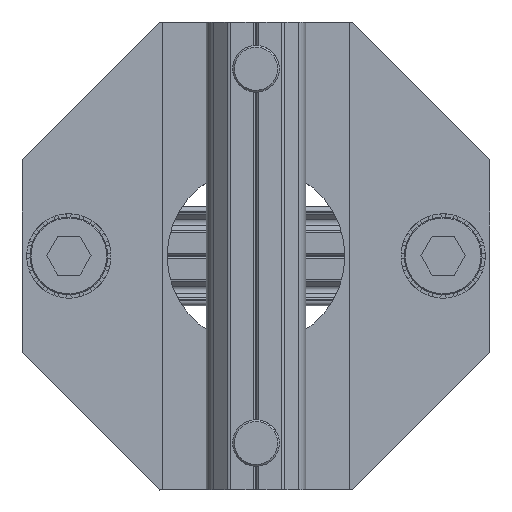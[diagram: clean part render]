
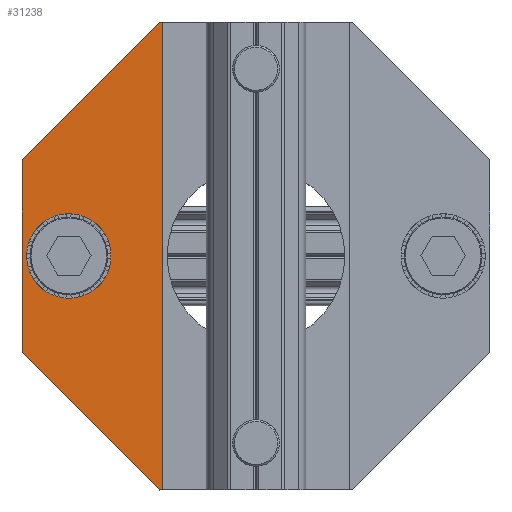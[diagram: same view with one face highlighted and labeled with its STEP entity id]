
A CAD part, top view. The second image highlights one B-rep face of the part: STEP entity #31238.
In plain terms, the highlighted planar face has unit normal (0, 0, 1).
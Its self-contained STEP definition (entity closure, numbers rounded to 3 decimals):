
#121 = ORIENTED_EDGE ( 'NONE', *, *, #4767, .F. ) ;
#147 = EDGE_CURVE ( 'NONE', #1216, #8924, #16301, .T. ) ;
#952 = CARTESIAN_POINT ( 'NONE',  ( -25.516, 5.232, 0. ) ) ;
#1043 = VECTOR ( 'NONE', #9720, 1000. ) ;
#1216 = VERTEX_POINT ( 'NONE', #9773 ) ;
#2390 = DIRECTION ( 'NONE',  ( 0., 0., 1. ) ) ;
#2747 = CARTESIAN_POINT ( 'NONE',  ( -20.516, 0., 0. ) ) ;
#4253 = CARTESIAN_POINT ( 'NONE',  ( -25.516, 5.165, 0. ) ) ;
#4767 = EDGE_CURVE ( 'NONE', #7686, #28721, #33639, .T. ) ;
#4784 = ORIENTED_EDGE ( 'NONE', *, *, #14534, .F. ) ;
#4918 = FACE_BOUND ( 'NONE', #36878, .T. ) ;
#5822 = ORIENTED_EDGE ( 'NONE', *, *, #6804, .T. ) ;
#6051 = DIRECTION ( 'NONE',  ( -0.707, -0.707, 0. ) ) ;
#6063 = DIRECTION ( 'NONE',  ( 1., 0., 0. ) ) ;
#6250 = LINE ( 'NONE', #36308, #13901 ) ;
#6390 = ORIENTED_EDGE ( 'NONE', *, *, #35831, .T. ) ;
#6629 = EDGE_LOOP ( 'NONE', ( #6390, #25272, #121, #18782, #26605, #11631, #22301, #5822, #35187, #14364 ) ) ;
#6804 = EDGE_CURVE ( 'NONE', #8138, #32970, #34823, .T. ) ;
#6832 = VERTEX_POINT ( 'NONE', #17656 ) ;
#6874 = CARTESIAN_POINT ( 'NONE',  ( -25.516, -10.355, 0. ) ) ;
#7031 = LINE ( 'NONE', #8136, #40836 ) ;
#7552 = CARTESIAN_POINT ( 'NONE',  ( -25.516, 5.075, 0. ) ) ;
#7686 = VERTEX_POINT ( 'NONE', #14499 ) ;
#7928 = EDGE_CURVE ( 'NONE', #24853, #20720, #34325, .T. ) ;
#8003 = DIRECTION ( 'NONE',  ( 1., 0., 0. ) ) ;
#8136 = CARTESIAN_POINT ( 'NONE',  ( -10.516, -24.9, 0. ) ) ;
#8138 = VERTEX_POINT ( 'NONE', #20310 ) ;
#8388 = VECTOR ( 'NONE', #6051, 1000. ) ;
#8858 = EDGE_CURVE ( 'NONE', #26115, #28721, #7031, .T. ) ;
#8924 = VERTEX_POINT ( 'NONE', #41073 ) ;
#9311 = ORIENTED_EDGE ( 'NONE', *, *, #7928, .F. ) ;
#9720 = DIRECTION ( 'NONE',  ( 0., -1., 0. ) ) ;
#9773 = CARTESIAN_POINT ( 'NONE',  ( -10.616, 25., 0. ) ) ;
#10412 = DIRECTION ( 'NONE',  ( 0.707, -0.707, 0. ) ) ;
#10805 = CARTESIAN_POINT ( 'NONE',  ( -25.516, 4.963, 0. ) ) ;
#10831 = EDGE_CURVE ( 'NONE', #19459, #8138, #6250, .T. ) ;
#10834 = EDGE_CURVE ( 'NONE', #27715, #6832, #23663, .T. ) ;
#11631 = ORIENTED_EDGE ( 'NONE', *, *, #20339, .T. ) ;
#12303 = CARTESIAN_POINT ( 'NONE',  ( -10.616, -25., 0. ) ) ;
#13901 = VECTOR ( 'NONE', #26741, 1000. ) ;
#14093 = CARTESIAN_POINT ( 'NONE',  ( -25.516, 4.83, 0. ) ) ;
#14364 = ORIENTED_EDGE ( 'NONE', *, *, #10834, .T. ) ;
#14499 = CARTESIAN_POINT ( 'NONE',  ( -10.516, 24.9, 0. ) ) ;
#14534 = EDGE_CURVE ( 'NONE', #20720, #24853, #22712, .T. ) ;
#15694 = LINE ( 'NONE', #34619, #40835 ) ;
#16301 = LINE ( 'NONE', #16389, #23994 ) ;
#16389 = CARTESIAN_POINT ( 'NONE',  ( 9.839, 25., 0. ) ) ;
#17234 = CARTESIAN_POINT ( 'NONE',  ( -25.516, 5.296, 0. ) ) ;
#17373 = CARTESIAN_POINT ( 'NONE',  ( -25.516, 4.678, 0. ) ) ;
#17656 = CARTESIAN_POINT ( 'NONE',  ( -10.871, -25., 0. ) ) ;
#18782 = ORIENTED_EDGE ( 'NONE', *, *, #37163, .T. ) ;
#18915 = CARTESIAN_POINT ( 'NONE',  ( -25.516, 4.568, 0. ) ) ;
#19177 = CARTESIAN_POINT ( 'NONE',  ( -10.871, 25., 0. ) ) ;
#19459 = VERTEX_POINT ( 'NONE', #30727 ) ;
#20310 = CARTESIAN_POINT ( 'NONE',  ( -25.516, 5.3, 0. ) ) ;
#20339 = EDGE_CURVE ( 'NONE', #8924, #19459, #34473, .T. ) ;
#20522 = CARTESIAN_POINT ( 'NONE',  ( -25.516, 5.264, 0. ) ) ;
#20660 = CARTESIAN_POINT ( 'NONE',  ( -25.516, 4.568, 0. ) ) ;
#20720 = VERTEX_POINT ( 'NONE', #27783 ) ;
#21976 = CARTESIAN_POINT ( 'NONE',  ( -20.516, 0., 0. ) ) ;
#22208 = DIRECTION ( 'NONE',  ( -1., 0., 0. ) ) ;
#22301 = ORIENTED_EDGE ( 'NONE', *, *, #10831, .T. ) ;
#22712 = CIRCLE ( 'NONE', #28413, 2.6 ) ;
#23663 = LINE ( 'NONE', #6874, #39010 ) ;
#23870 = CARTESIAN_POINT ( 'NONE',  ( -25.516, 5.212, 0. ) ) ;
#23994 = VECTOR ( 'NONE', #42350, 1000. ) ;
#24853 = VERTEX_POINT ( 'NONE', #34745 ) ;
#24972 = VECTOR ( 'NONE', #35313, 1000. ) ;
#25272 = ORIENTED_EDGE ( 'NONE', *, *, #8858, .T. ) ;
#25331 = DIRECTION ( 'NONE',  ( 1., 0., 0. ) ) ;
#25525 = CARTESIAN_POINT ( 'NONE',  ( -10.516, 25., 0. ) ) ;
#25686 = DIRECTION ( 'NONE',  ( 0., 0., 1. ) ) ;
#26115 = VERTEX_POINT ( 'NONE', #12303 ) ;
#26605 = ORIENTED_EDGE ( 'NONE', *, *, #147, .T. ) ;
#26741 = DIRECTION ( 'NONE',  ( 0., -1., 0. ) ) ;
#26863 = CARTESIAN_POINT ( 'NONE',  ( -25.516, 5.3, 0. ) ) ;
#27154 = CARTESIAN_POINT ( 'NONE',  ( -25.516, 5.137, 0. ) ) ;
#27715 = VERTEX_POINT ( 'NONE', #32474 ) ;
#27783 = CARTESIAN_POINT ( 'NONE',  ( -17.916, 0., 0. ) ) ;
#28413 = AXIS2_PLACEMENT_3D ( 'NONE', #21976, #2390, #25331 ) ;
#28659 = PLANE ( 'NONE',  #29492 ) ;
#28721 = VERTEX_POINT ( 'NONE', #30200 ) ;
#29312 = CARTESIAN_POINT ( 'NONE',  ( -25.516, 4.568, 0. ) ) ;
#29492 = AXIS2_PLACEMENT_3D ( 'NONE', #18915, #41871, #22208 ) ;
#30200 = CARTESIAN_POINT ( 'NONE',  ( -10.516, -24.9, 0. ) ) ;
#30420 = CARTESIAN_POINT ( 'NONE',  ( -25.516, 5.04, 0. ) ) ;
#30727 = CARTESIAN_POINT ( 'NONE',  ( -25.516, 10.355, 0. ) ) ;
#31238 = ADVANCED_FACE ( 'NONE', ( #4918, #38705 ), #28659, .F. ) ;
#31341 = DIRECTION ( 'NONE',  ( -0.707, 0.707, 0. ) ) ;
#31760 = LINE ( 'NONE', #29312, #1043 ) ;
#32474 = CARTESIAN_POINT ( 'NONE',  ( -25.516, -10.355, 0. ) ) ;
#32970 = VERTEX_POINT ( 'NONE', #36709 ) ;
#33639 = LINE ( 'NONE', #25525, #24972 ) ;
#33700 = AXIS2_PLACEMENT_3D ( 'NONE', #2747, #25686, #6063 ) ;
#33714 = CARTESIAN_POINT ( 'NONE',  ( -25.516, 4.921, 0. ) ) ;
#34325 = CIRCLE ( 'NONE', #33700, 2.6 ) ;
#34473 = LINE ( 'NONE', #19177, #8388 ) ;
#34619 = CARTESIAN_POINT ( 'NONE',  ( -10.616, 25., 0. ) ) ;
#34745 = CARTESIAN_POINT ( 'NONE',  ( -23.116, 0., 0. ) ) ;
#34823 = B_SPLINE_CURVE_WITH_KNOTS ( 'NONE', 3,
 ( #26863, #17234, #36854, #40182, #20522, #952, #23870, #4253, #27154, #7552, #30420, #10805, #33714, #14093, #36990, #17373, #40317, #20660 ),
 .UNSPECIFIED., .F., .F.,
 ( 4, 2, 2, 2, 2, 2, 2, 2, 4 ),
 ( 0., 0.016, 0.066, 0.147, 0.26, 0.403, 0.575, 0.775, 1. ),
 .UNSPECIFIED. ) ;
#35187 = ORIENTED_EDGE ( 'NONE', *, *, #41048, .T. ) ;
#35313 = DIRECTION ( 'NONE',  ( 0., -1., 0. ) ) ;
#35831 = EDGE_CURVE ( 'NONE', #6832, #26115, #41079, .T. ) ;
#36308 = CARTESIAN_POINT ( 'NONE',  ( -25.516, 10.355, 0. ) ) ;
#36709 = CARTESIAN_POINT ( 'NONE',  ( -25.516, 4.568, 0. ) ) ;
#36854 = CARTESIAN_POINT ( 'NONE',  ( -25.516, 5.292, 0. ) ) ;
#36878 = EDGE_LOOP ( 'NONE', ( #4784, #9311 ) ) ;
#36990 = CARTESIAN_POINT ( 'NONE',  ( -25.516, 4.781, 0. ) ) ;
#37163 = EDGE_CURVE ( 'NONE', #7686, #1216, #15694, .T. ) ;
#37424 = DIRECTION ( 'NONE',  ( 0.707, 0.707, 0. ) ) ;
#38705 = FACE_OUTER_BOUND ( 'NONE', #6629, .T. ) ;
#39010 = VECTOR ( 'NONE', #10412, 1000. ) ;
#40027 = VECTOR ( 'NONE', #8003, 1000. ) ;
#40182 = CARTESIAN_POINT ( 'NONE',  ( -25.516, 5.276, 0. ) ) ;
#40317 = CARTESIAN_POINT ( 'NONE',  ( -25.516, 4.623, 0. ) ) ;
#40501 = CARTESIAN_POINT ( 'NONE',  ( -10.871, -25., 0. ) ) ;
#40835 = VECTOR ( 'NONE', #31341, 1000. ) ;
#40836 = VECTOR ( 'NONE', #37424, 1000. ) ;
#41048 = EDGE_CURVE ( 'NONE', #32970, #27715, #31760, .T. ) ;
#41073 = CARTESIAN_POINT ( 'NONE',  ( -10.871, 25., 0. ) ) ;
#41079 = LINE ( 'NONE', #40501, #40027 ) ;
#41871 = DIRECTION ( 'NONE',  ( 0., 0., -1. ) ) ;
#42350 = DIRECTION ( 'NONE',  ( -1., 0., 0. ) ) ;
